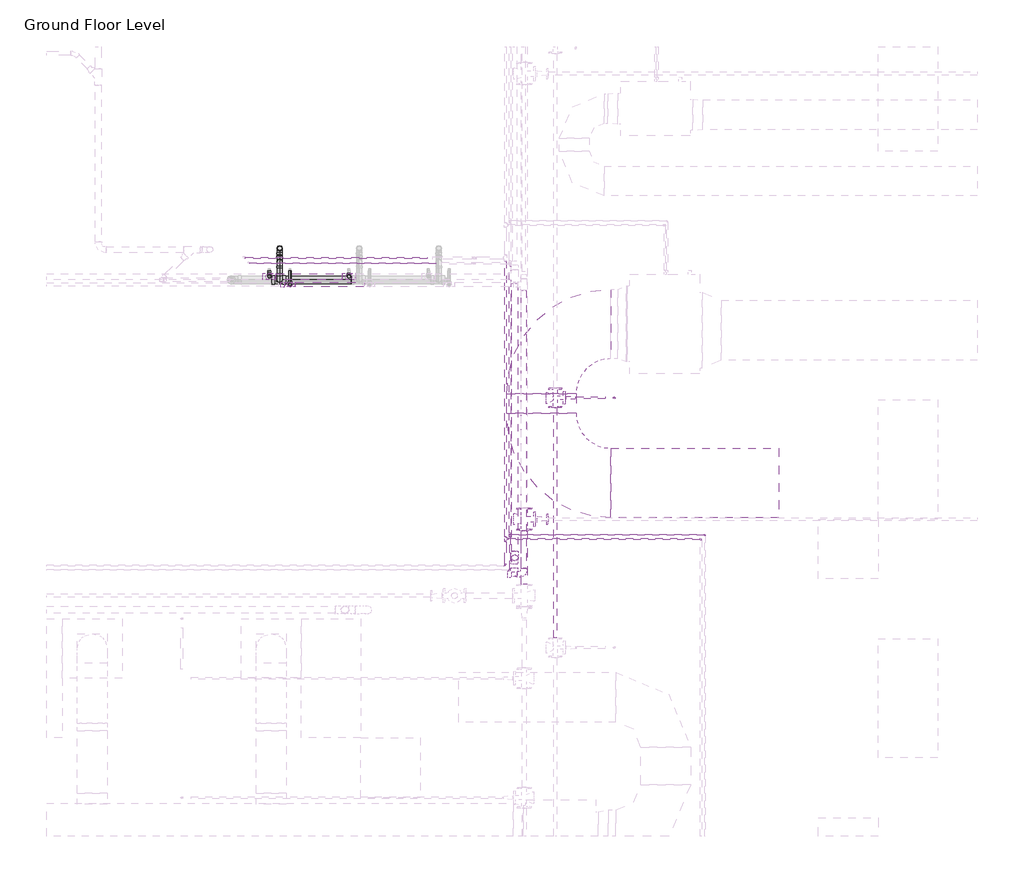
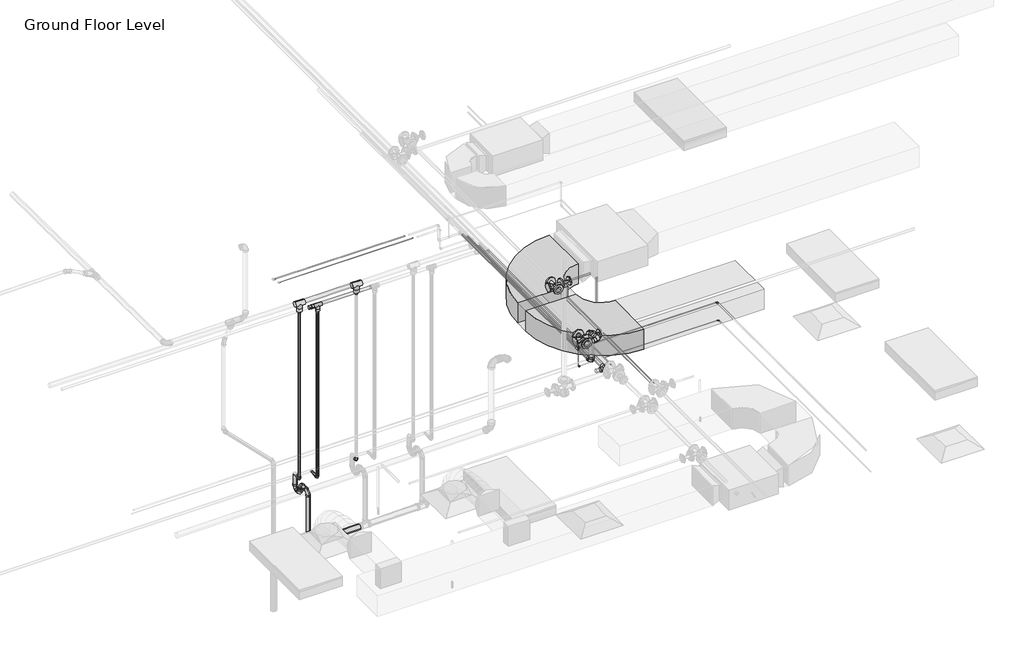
# One storey, part 17 of 75: 34 pipe fittings, 29 pipe segments, 2 duct fittings, 2 duct segments, 1 fire suppression terminal.
"""IFC4 building model written with IfcOpenShell, lengths in millimetres."""

from ifc_helpers import new_model, si_unit, point, frame, frame_2d, origin, place, context, project, spatial, polyline, circle_curve, trimmed, segment, composite_curve, outline, extrude, transform, mapped, element, save
from components import m_rectangular_elbow_radius_1_w_8a62b27e, m_sprinkler_pendent_15_mm_pendent_06fcbd8e, m_bend_pvc_sch_40_dwv_standard_1e7bdcc1, m_bend_pvc_sch_40_dwv_standard_776e50c4, m_bend_pvc_sch_40_dwv_standard_aab78995, m_elbow_generic_standard_a088f956, m_elbow_generic_standard_2a704253, m_reducer_flanged_cs_class_150_standard_d42b2106, m_reducer_flanged_cs_class_150_standard_a7631c35, m_tee_generic_standard_5b2ed4d4, m_tee_generic_standard_cdc1cff5, m_tee_reducing_sanitary_pvc_sch_40_dwv_standard_21d2848c, m_tee_round_base_flanged_cs_class_150_standard_dd767e04, m_tee_round_base_flanged_cs_class_150_standard_7e5987a1, m_transition_generic_standard_6dc712c0, m_transition_generic_standard_bdcfe2c1, m_transition_generic_standard_2d362458, standard_b266ab3f, standard_08ff6011, standard_d0d0b892, standard_cd25fed3, standard_83629b21, standard_57727813, standard_9d5ac8af, standard_102e5625

model = new_model("IFC4")

# Units and contexts
model_context = context("Model", 3, world=origin())
ifc_project = project(units=[si_unit("LENGTHUNIT", "METRE", prefix="MILLI")], contexts=[model_context])

# Site, building, storey
site = spatial("IfcSite", under=ifc_project)
building = spatial("IfcBuilding", under=site)
storey = spatial("IfcBuildingStorey", under=building, Name="Ground Floor Level", Elevation=900.0)

# Duct fittings
placement = place(None, origin())
m_rectangular_elbow_radius_1_w_shape = m_rectangular_elbow_radius_1_w_8a62b27e(model_context)
element("IfcDuctFitting", 1, ObjectType="M_Rectangular Elbow - Radius : 1 W", at=placement, inside=storey, context=model_context, shape_type="MappedRepresentation", body=[
    mapped(m_rectangular_elbow_radius_1_w_shape, transform((5857.7672394, -33301.2726336, 4032.4375), x_axis=(-1.0, 0.0, 0.0), y_axis=(0.0, -1.0, 0.0), z_axis=(0.0, 0.0, 1.0))),
])
element("IfcDuctFitting", 2, ObjectType="M_Rectangular Elbow - Radius : 1 W", at=placement, inside=storey, context=model_context, shape_type="MappedRepresentation", body=[
    mapped(m_rectangular_elbow_radius_1_w_shape, transform((5857.7672394, -34901.2726336, 4032.4375), x_axis=(0.0, -1.0, 0.0), y_axis=(1.0, 0.0, 0.0), z_axis=(0.0, 0.0, 1.0))),
])

# Duct segments
element("IfcDuctSegment", 3, ObjectType="Radius Elbows / Taps", at=placement, inside=storey, context=model_context, shape_type="SweptSolid", body=[
    extrude(outline(polyline([(5507.7672394, -34001.2726336), (6207.7672394, -34001.2726336), (6207.7672394, -34201.2726336), (5507.7672394, -34201.2726336), (5507.7672394, -34001.2726336)])), frame((0.0, 0.0, 3882.4375), z_axis=(0.0, 0.0, 1.0), x_axis=(1.0, 0.0, 0.0)), (0.0, 0.0, 1.0), 300.0),
])
element("IfcDuctSegment", 4, ObjectType="Radius Elbows / Taps", at=placement, inside=storey, context=model_context, shape_type="SweptSolid", body=[
    extrude(outline(polyline([(6557.7672394, -35251.2726336), (6557.7672394, -34551.2726336), (8242.7672394, -34551.2726336), (8242.7672394, -35251.2726336), (6557.7672394, -35251.2726336)])), frame((0.0, 0.0, 3882.4375), z_axis=(0.0, 0.0, 1.0), x_axis=(1.0, 0.0, 0.0)), (0.0, 0.0, 1.0), 300.0),
])

# Fire suppression terminal
m_sprinkler_pendent_15_mm_pendent_shape = m_sprinkler_pendent_15_mm_pendent_06fcbd8e(model_context)
element("IfcFireSuppressionTerminal", 5, ObjectType="M_Sprinkler - Pendent : 15 mm Pendent", at=placement, inside=storey, context=model_context, shape_type="MappedRepresentation", body=[
    mapped(m_sprinkler_pendent_15_mm_pendent_shape, transform((6592.5481019, -34045.051432, 3650.0), x_axis=(1.0, 0.0, 0.0), y_axis=(0.0, 1.0, 0.0), z_axis=(0.0, 0.0, 1.0))),
])

# Pipe fittings
m_bend_pvc_sch_40_dwv_standard_shape = m_bend_pvc_sch_40_dwv_standard_1e7bdcc1(model_context)
element("IfcPipeFitting", 6, ObjectType="M_Bend - PVC - Sch 40 - DWV : Standard", at=placement, inside=storey, context=model_context, shape_type="MappedRepresentation", body=[
    mapped(m_bend_pvc_sch_40_dwv_standard_shape, transform((3226.7846789, -32541.2164355, 1350.0), x_axis=(0.0, 0.0, -1.0), y_axis=(0.0, -1.0, 0.0), z_axis=(-1.0, 0.0, 0.0))),
])
m_bend_pvc_sch_40_dwv_standard_2_shape = m_bend_pvc_sch_40_dwv_standard_776e50c4(model_context)
element("IfcPipeFitting", 7, ObjectType="M_Bend - PVC - Sch 40 - DWV : Standard", at=placement, inside=storey, context=model_context, shape_type="MappedRepresentation", body=[
    mapped(m_bend_pvc_sch_40_dwv_standard_2_shape, transform((3226.7846789, -32676.2164355, 1348.45), x_axis=(0.0, -0.9999500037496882, -0.009999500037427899), y_axis=(0.0, -0.009999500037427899, 0.9999500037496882), z_axis=(-1.0, 0.0, 0.0))),
])
element("IfcPipeFitting", 8, ObjectType="M_Bend - PVC - Sch 40 - DWV : Standard", at=placement, inside=storey, context=model_context, shape_type="MappedRepresentation", body=[
    mapped(m_bend_pvc_sch_40_dwv_standard_2_shape, transform((3226.7846789, -32676.2164355, 1490.0), x_axis=(0.0, 0.0, 1.0), y_axis=(0.0, -1.0, 0.0), z_axis=(1.0, 0.0, 0.0))),
])
m_bend_pvc_sch_40_dwv_standard_3_shape = m_bend_pvc_sch_40_dwv_standard_aab78995(model_context)
element("IfcPipeFitting", 9, ObjectType="M_Bend - PVC - Sch 40 - DWV : Standard", at=placement, inside=storey, context=model_context, shape_type="MappedRepresentation", body=[
    mapped(m_bend_pvc_sch_40_dwv_standard_3_shape, transform((3226.7846789, -32858.7119065, 1488.4250453), x_axis=(0.0, -0.999968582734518, -0.007926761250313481), y_axis=(0.0, 0.007926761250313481, -0.999968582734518), z_axis=(1.0, 0.0, 0.0))),
])
m_elbow_generic_standard_shape = m_elbow_generic_standard_a088f956(model_context)
element("IfcPipeFitting", 10, ObjectType="M_Elbow - Generic : Standard", at=placement, inside=storey, context=model_context, shape_type="MappedRepresentation", body=[
    mapped(m_elbow_generic_standard_shape, transform((5497.8951827, -35730.466218, 4390.0), x_axis=(1.0, 0.0, 0.0), y_axis=(0.0, 1.0, 0.0), z_axis=(0.0, 0.0, 1.0))),
])
element("IfcPipeFitting", 11, ObjectType="M_Elbow - Generic : Standard", at=placement, inside=storey, context=model_context, shape_type="MappedRepresentation", body=[
    mapped(m_elbow_generic_standard_shape, transform((7462.8951827, -35463.1206952, 4390.0), x_axis=(0.0, 1.0, 0.0), y_axis=(-1.0, 0.0, 0.0), z_axis=(0.0, 0.0, 1.0))),
])
m_elbow_generic_standard_2_shape = m_elbow_generic_standard_2a704253(model_context)
element("IfcPipeFitting", 12, ObjectType="M_Elbow - Generic : Standard", at=placement, inside=storey, context=model_context, shape_type="MappedRepresentation", body=[
    mapped(m_elbow_generic_standard_2_shape, transform((5543.9904113, -35773.5402522, 4377.5), x_axis=(1.0, 0.0, 0.0), y_axis=(0.0, 1.0, 0.0), z_axis=(0.0, 0.0, 1.0))),
])
element("IfcPipeFitting", 13, ObjectType="M_Elbow - Generic : Standard", at=placement, inside=storey, context=model_context, shape_type="MappedRepresentation", body=[
    mapped(m_elbow_generic_standard_2_shape, transform((7503.9904113, -35420.6009836, 4084.9), x_axis=(0.0, 1.0, 0.0), y_axis=(-1.0, 0.0, 0.0), z_axis=(0.0, 0.0, 1.0))),
])
element("IfcPipeFitting", 14, ObjectType="M_Elbow - Generic : Standard", at=placement, inside=storey, context=model_context, shape_type="MappedRepresentation", body=[
    mapped(m_elbow_generic_standard_2_shape, transform((5543.9904113, -35420.6009836, 4084.9), x_axis=(0.0, 0.0, -1.0), y_axis=(1.0, 0.0, 0.0), z_axis=(0.0, -1.0, 0.0))),
])
m_reducer_flanged_cs_class_150_standard_shape = m_reducer_flanged_cs_class_150_standard_d42b2106(model_context)
element("IfcPipeFitting", 15, ObjectType="M_Reducer - Flanged - CS - Class 150 : Standard", at=placement, inside=storey, context=model_context, shape_type="MappedRepresentation", body=[
    mapped(m_reducer_flanged_cs_class_150_standard_shape, transform((6097.7664057, -34045.051432, 4291.2754753), x_axis=(1.0, 0.0, 0.0), y_axis=(0.0, 0.0, -1.0), z_axis=(0.0, 1.0, 0.0))),
])
m_reducer_flanged_cs_class_150_standard_2_shape = m_reducer_flanged_cs_class_150_standard_a7631c35(model_context)
element("IfcPipeFitting", 16, ObjectType="M_Reducer - Flanged - CS - Class 150 : Standard", at=placement, inside=storey, context=model_context, shape_type="MappedRepresentation", body=[
    mapped(m_reducer_flanged_cs_class_150_standard_2_shape, transform((5798.6174894, -35264.7846466, 4347.5), x_axis=(1.0, 0.0, 0.0), y_axis=(0.0, 0.0, 1.0), z_axis=(0.0, -1.0, 0.0))),
])
m_tee_generic_standard_shape = m_tee_generic_standard_5b2ed4d4(model_context)
element("IfcPipeFitting", 17, ObjectType="M_Tee - Generic : Standard", at=placement, inside=storey, context=model_context, shape_type="MappedRepresentation", body=[
    mapped(m_tee_generic_standard_shape, transform((5543.9904113, -35420.6009836, 4377.5), x_axis=(0.0, 1.0, 0.0), y_axis=(0.0, 0.0, 1.0), z_axis=(1.0, 0.0, 0.0))),
])
m_tee_generic_standard_2_shape = m_tee_generic_standard_cdc1cff5(model_context)
element("IfcPipeFitting", 18, ObjectType="M_Tee - Generic : Standard", at=placement, inside=storey, context=model_context, shape_type="MappedRepresentation", body=[
    mapped(m_tee_generic_standard_2_shape, transform((5497.8951827, -35463.1206952, 4390.0), x_axis=(0.0, 1.0, 0.0), y_axis=(-1.0, 0.0, 0.0), z_axis=(0.0, 0.0, 1.0))),
])
m_tee_reducing_sanitary_pvc_sch_40_dwv_standard_shape = m_tee_reducing_sanitary_pvc_sch_40_dwv_standard_21d2848c(model_context)
element("IfcPipeFitting", 19, ObjectType="M_Tee Reducing Sanitary - PVC - Sch 40 - DWV : Standard", at=placement, inside=storey, context=model_context, shape_type="MappedRepresentation", body=[
    mapped(m_tee_reducing_sanitary_pvc_sch_40_dwv_standard_shape, transform((3226.7846789, -32858.7119065, 706.4596926), x_axis=(0.9999500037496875, 0.0, 0.00999950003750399), y_axis=(0.00999950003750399, 0.0, -0.9999500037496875), z_axis=(0.0, 1.0, 0.0))),
])
m_tee_round_base_flanged_cs_class_150_standard_shape = m_tee_round_base_flanged_cs_class_150_standard_dd767e04(model_context)
element("IfcPipeFitting", 20, ObjectType="M_Tee Round Base - Flanged - CS - Class 150 : Standard", at=placement, inside=storey, context=model_context, shape_type="MappedRepresentation", body=[
    mapped(m_tee_round_base_flanged_cs_class_150_standard_shape, transform((5684.6174894, -35264.7846466, 4347.5), x_axis=(0.0, -1.0, 0.0), y_axis=(-1.0, 0.0, 0.0), z_axis=(0.0, 0.0, -1.0))),
])
m_tee_round_base_flanged_cs_class_150_standard_2_shape = m_tee_round_base_flanged_cs_class_150_standard_7e5987a1(model_context)
element("IfcPipeFitting", 21, ObjectType="M_Tee Round Base - Flanged - CS - Class 150 : Standard", at=placement, inside=storey, context=model_context, shape_type="MappedRepresentation", body=[
    mapped(m_tee_round_base_flanged_cs_class_150_standard_2_shape, transform((5997.057812, -34045.051432, 4291.0943441), x_axis=(0.0, 1.0, 0.0), y_axis=(-1.0, 0.0, 0.0), z_axis=(0.0, 0.0, 1.0))),
])
m_transition_generic_standard_shape = m_transition_generic_standard_6dc712c0(model_context)
element("IfcPipeFitting", 22, ObjectType="M_Transition - Generic : Standard", at=placement, inside=storey, context=model_context, shape_type="MappedRepresentation", body=[
    mapped(m_transition_generic_standard_shape, transform((5497.8951827, -35485.3456952, 4390.0), x_axis=(0.0, -1.0, 0.0), y_axis=(1.0, 0.0, 0.0), z_axis=(0.0, 0.0, 1.0))),
])
element("IfcPipeFitting", 23, ObjectType="M_Transition - Generic : Standard", at=placement, inside=storey, context=model_context, shape_type="MappedRepresentation", body=[
    mapped(m_transition_generic_standard_shape, transform((5520.1201827, -35463.1206952, 4390.0), x_axis=(1.0, 0.0, 0.0), y_axis=(0.0, 1.0, 0.0), z_axis=(0.0, 0.0, 1.0))),
])
m_transition_generic_standard_2_shape = m_transition_generic_standard_bdcfe2c1(model_context)
element("IfcPipeFitting", 24, ObjectType="M_Transition - Generic : Standard", at=placement, inside=storey, context=model_context, shape_type="MappedRepresentation", body=[
    mapped(m_transition_generic_standard_2_shape, transform((5543.9904113, -35441.2384836, 4377.5), x_axis=(0.0, -1.0, 0.0), y_axis=(1.0, 0.0, 0.0), z_axis=(0.0, 0.0, 1.0))),
])
m_transition_generic_standard_3_shape = m_transition_generic_standard_2d362458(model_context)
element("IfcPipeFitting", 25, ObjectType="M_Transition - Generic : Standard", at=placement, inside=storey, context=model_context, shape_type="MappedRepresentation", body=[
    mapped(m_transition_generic_standard_3_shape, transform((5543.9904113, -35420.6009836, 4356.8625), x_axis=(0.0, 0.0, -1.0), y_axis=(-1.0, 0.0, 0.0), z_axis=(0.0, 1.0, 0.0))),
])
standard_shape = standard_b266ab3f(model_context)
element("IfcPipeFitting", 26, ObjectType="M_Elbow - CPVC - Sch 40 : Standard", at=placement, inside=storey, context=model_context, shape_type="MappedRepresentation", body=[
    mapped(standard_shape, transform((3922.4697583, -32824.9853451, 1690.0), x_axis=(0.0, 0.0, -1.0), y_axis=(0.0, 1.0, 0.0), z_axis=(1.0, 0.0, 0.0))),
])
element("IfcPipeFitting", 27, ObjectType="M_Elbow - CPVC - Sch 40 : Standard", at=placement, inside=storey, context=model_context, shape_type="MappedRepresentation", body=[
    mapped(standard_shape, transform((3122.4697583, -32824.9853451, 1690.0), x_axis=(0.0, 0.0, -1.0), y_axis=(0.0, 1.0, 0.0), z_axis=(1.0, 0.0, 0.0))),
])
element("IfcPipeFitting", 28, ObjectType="M_Elbow - CPVC - Sch 40 : Standard", at=placement, inside=storey, context=model_context, shape_type="MappedRepresentation", body=[
    mapped(standard_shape, transform((3331.0995995, -32905.870708, 1690.0), x_axis=(0.0, -1.0, 0.0), y_axis=(0.0, 0.0, 1.0), z_axis=(-1.0, 0.0, 0.0))),
])
standard_2_shape = standard_08ff6011(model_context)
element("IfcPipeFitting", 29, ObjectType="M_Tee - CPVC - Sch 40 : Standard", at=placement, inside=storey, context=model_context, shape_type="MappedRepresentation", body=[
    mapped(standard_2_shape, transform((3331.0995995, -32905.870708, 4250.0), x_axis=(1.0, 0.0, 0.0), y_axis=(0.0, 0.0, 1.0), z_axis=(0.0, -1.0, 0.0))),
])
standard_3_shape = standard_d0d0b892(model_context)
element("IfcPipeFitting", 30, ObjectType="M_Coupling Reducing - CPVC - Sch 40 : Standard", at=placement, inside=storey, context=model_context, shape_type="MappedRepresentation", body=[
    mapped(standard_3_shape, transform((3277.1245995, -32905.870708, 4250.0), x_axis=(-1.0, 0.0, 0.0), y_axis=(0.0, -1.0, 0.0), z_axis=(0.0, 0.0, 1.0))),
])
standard_4_shape = standard_cd25fed3(model_context)
element("IfcPipeFitting", 31, ObjectType="M_Tee - CPVC - Sch 40 : Standard", at=placement, inside=storey, context=model_context, shape_type="MappedRepresentation", body=[
    mapped(standard_4_shape, transform((3922.4697583, -32824.9853451, 4300.0), x_axis=(-1.0, 0.0, 0.0), y_axis=(0.0, 0.0, 1.0), z_axis=(0.0, 1.0, 0.0))),
])
element("IfcPipeFitting", 32, ObjectType="M_Tee - CPVC - Sch 40 : Standard", at=placement, inside=storey, context=model_context, shape_type="MappedRepresentation", body=[
    mapped(standard_4_shape, transform((3122.4697583, -32824.9853451, 4300.0), x_axis=(-1.0, 0.0, 0.0), y_axis=(0.0, 0.0, 1.0), z_axis=(0.0, 1.0, 0.0))),
])
standard_5_shape = standard_83629b21(model_context)
element("IfcPipeFitting", 33, ObjectType="M_Coupling Reducing - CPVC - Sch 40 : Standard", at=placement, inside=storey, context=model_context, shape_type="MappedRepresentation", body=[
    mapped(standard_5_shape, transform((3331.0995995, -32905.870708, 4196.025), x_axis=(0.0, 0.0, -1.0), y_axis=(-1.0, 0.0, 0.0), z_axis=(0.0, 1.0, 0.0))),
])
standard_6_shape = standard_57727813(model_context)
element("IfcPipeFitting", 34, ObjectType="M_Elbow - CPVC - Sch 40 : Standard", at=placement, inside=storey, context=model_context, shape_type="MappedRepresentation", body=[
    mapped(standard_6_shape, transform((5589.646628, -35653.7116931, 4719.8375), x_axis=(0.0, 0.0, 1.0), y_axis=(-0.06975647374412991, -0.997564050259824, 0.0), z_axis=(0.997564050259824, -0.06975647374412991, 0.0))),
])
element("IfcPipeFitting", 35, ObjectType="M_Elbow - CPVC - Sch 40 : Standard", at=placement, inside=storey, context=model_context, shape_type="MappedRepresentation", body=[
    mapped(standard_6_shape, transform((5585.1617227, -35819.459752, 4719.8375), x_axis=(1.0, 0.0, 0.0), y_axis=(0.0, 1.0, 0.0), z_axis=(0.0, 0.0, 1.0))),
])
element("IfcPipeFitting", 36, ObjectType="M_Elbow - CPVC - Sch 40 : Standard", at=placement, inside=storey, context=model_context, shape_type="MappedRepresentation", body=[
    mapped(standard_6_shape, transform((5589.646628, -35653.7116931, 4300.0), x_axis=(0.0, 0.0, -1.0), y_axis=(0.0, 1.0, 0.0), z_axis=(1.0, 0.0, 0.0))),
])
standard_7_shape = standard_9d5ac8af(model_context)
element("IfcPipeFitting", 37, ObjectType="M_Coupling Reducing - CPVC - Sch 40 : Standard", at=placement, inside=storey, context=model_context, shape_type="MappedRepresentation", body=[
    mapped(standard_7_shape, transform((3922.4697583, -32824.9853451, 4233.325), x_axis=(0.0, 0.0, -1.0), y_axis=(-1.0, 0.0, 0.0), z_axis=(0.0, 1.0, 0.0))),
])
element("IfcPipeFitting", 38, ObjectType="M_Coupling Reducing - CPVC - Sch 40 : Standard", at=placement, inside=storey, context=model_context, shape_type="MappedRepresentation", body=[
    mapped(standard_7_shape, transform((3122.4697583, -32824.9853451, 4233.325), x_axis=(0.0, 0.0, -1.0), y_axis=(-1.0, 0.0, 0.0), z_axis=(0.0, 1.0, 0.0))),
])
standard_8_shape = standard_102e5625(model_context)
element("IfcPipeFitting", 39, ObjectType="M_Elbow - CPVC - Sch 40 : Standard", at=placement, inside=storey, context=model_context, shape_type="MappedRepresentation", body=[
    mapped(standard_8_shape, transform((5680.5575802, -35819.459752, 4250.0), x_axis=(1.0, 0.0, 0.0), y_axis=(0.0, 1.0, 0.0), z_axis=(0.0, 0.0, 1.0))),
])

# Pipe segments
element("IfcPipeSegment", 40, ObjectType="CPVC", at=placement, inside=storey, context=model_context, shape_type="SweptSolid", body=[
    extrude(outline(composite_curve([segment(trimmed(circle_curve(frame_2d((5589.646628, -35653.7116931)), 30.1625), [point((5559.484128, -35653.7116931))], [point((5589.646628, -35623.5491931))], False, "CARTESIAN"), True, "CONTINUOUS"), segment(trimmed(circle_curve(frame_2d((5589.646628, -35653.7116931)), 30.1625), [point((5589.646628, -35623.5491931))], [point((5619.809128, -35653.7116931))], False, "CARTESIAN"), True, "CONTINUOUS"), segment(trimmed(circle_curve(frame_2d((5589.646628, -35653.7116931)), 30.1625), [point((5619.809128, -35653.7116931))], [point((5589.646628, -35683.8741931))], False, "CARTESIAN"), True, "CONTINUOUS"), segment(trimmed(circle_curve(frame_2d((5589.646628, -35653.7116931)), 30.1625), [point((5589.646628, -35683.8741931))], [point((5559.484128, -35653.7116931))], False, "CARTESIAN"), True, "CONTINUOUS")], self_intersect=False)), frame((0.0, 0.0, 4364.29375), z_axis=(0.0, 0.0, 1.0), x_axis=(1.0, 0.0, 0.0)), (0.0, 0.0, 1.0), 291.25),
])
element("IfcPipeSegment", 41, ObjectType="CPVC", at=placement, inside=storey, context=model_context, shape_type="SweptSolid", body=[
    extrude(outline(composite_curve([segment(trimmed(circle_curve(frame_2d((4300.0, 5589.646628)), 30.1625), [point((4300.0, 5559.484128))], [point((4269.8375, 5589.646628))], False, "CARTESIAN"), True, "CONTINUOUS"), segment(trimmed(circle_curve(frame_2d((4300.0, 5589.646628)), 30.1625), [point((4269.8375, 5589.646628))], [point((4300.0, 5619.809128))], False, "CARTESIAN"), True, "CONTINUOUS"), segment(trimmed(circle_curve(frame_2d((4300.0, 5589.646628)), 30.1625), [point((4300.0, 5619.809128))], [point((4330.1625, 5589.646628))], False, "CARTESIAN"), True, "CONTINUOUS"), segment(trimmed(circle_curve(frame_2d((4300.0, 5589.646628)), 30.1625), [point((4330.1625, 5589.646628))], [point((4300.0, 5559.484128))], False, "CARTESIAN"), True, "CONTINUOUS")], self_intersect=False)), frame((0.0, -35589.4179431, 0.0), z_axis=(0.0, 1.0, 0.0), x_axis=(0.0, 0.0, 1.0)), (0.0, 0.0, 1.0), 2697.757598),
])
element("IfcPipeSegment", 42, ObjectType="CPVC", at=placement, inside=storey, context=model_context, shape_type="SweptSolid", body=[
    extrude(outline(composite_curve([segment(trimmed(circle_curve(frame_2d((-32824.9853451, 4300.0)), 30.1625), [point((-32855.1478451, 4300.0))], [point((-32824.9853451, 4330.1625))], False, "CARTESIAN"), True, "CONTINUOUS"), segment(trimmed(circle_curve(frame_2d((-32824.9853451, 4300.0)), 30.1625), [point((-32824.9853451, 4330.1625))], [point((-32794.8228451, 4300.0))], False, "CARTESIAN"), True, "CONTINUOUS"), segment(trimmed(circle_curve(frame_2d((-32824.9853451, 4300.0)), 30.1625), [point((-32794.8228451, 4300.0))], [point((-32824.9853451, 4269.8375))], False, "CARTESIAN"), True, "CONTINUOUS"), segment(trimmed(circle_curve(frame_2d((-32824.9853451, 4300.0)), 30.1625), [point((-32824.9853451, 4269.8375))], [point((-32855.1478451, 4300.0))], False, "CARTESIAN"), True, "CONTINUOUS")], self_intersect=False)), frame((3189.1447583, 0.0, 0.0), z_axis=(1.0, 0.0, 0.0), x_axis=(0.0, 1.0, 0.0)), (0.0, 0.0, 1.0), 666.65),
])
element("IfcPipeSegment", 43, ObjectType="CPVC", at=placement, inside=storey, context=model_context, shape_type="SweptSolid", body=[
    extrude(outline(composite_curve([segment(trimmed(circle_curve(frame_2d((1690.0, 3122.4697583)), 13.335), [point((1690.0, 3135.8047583))], [point((1703.335, 3122.4697583))], False, "CARTESIAN"), True, "CONTINUOUS"), segment(trimmed(circle_curve(frame_2d((1690.0, 3122.4697583)), 13.335), [point((1703.335, 3122.4697583))], [point((1690.0, 3109.1347583))], False, "CARTESIAN"), True, "CONTINUOUS"), segment(trimmed(circle_curve(frame_2d((1690.0, 3122.4697583)), 13.335), [point((1690.0, 3109.1347583))], [point((1676.665, 3122.4697583))], False, "CARTESIAN"), True, "CONTINUOUS"), segment(trimmed(circle_curve(frame_2d((1690.0, 3122.4697583)), 13.335), [point((1676.665, 3122.4697583))], [point((1690.0, 3135.8047583))], False, "CARTESIAN"), True, "CONTINUOUS")], self_intersect=False)), frame((0.0, -32789.6602951, 0.0), z_axis=(0.0, 1.0, 0.0), x_axis=(0.0, 0.0, 1.0)), (0.0, 0.0, 1.0), 24.8756485),
])
element("IfcPipeSegment", 44, ObjectType="CPVC", at=placement, inside=storey, context=model_context, shape_type="SweptSolid", body=[
    extrude(outline(composite_curve([segment(trimmed(circle_curve(frame_2d((3122.4697583, -32824.9853451)), 13.335), [point((3135.8047583, -32824.9853451))], [point((3122.4697583, -32838.3203451))], False, "CARTESIAN"), True, "CONTINUOUS"), segment(trimmed(circle_curve(frame_2d((3122.4697583, -32824.9853451)), 13.335), [point((3122.4697583, -32838.3203451))], [point((3109.1347583, -32824.9853451))], False, "CARTESIAN"), True, "CONTINUOUS"), segment(trimmed(circle_curve(frame_2d((3122.4697583, -32824.9853451)), 13.335), [point((3109.1347583, -32824.9853451))], [point((3122.4697583, -32811.6503451))], False, "CARTESIAN"), True, "CONTINUOUS"), segment(trimmed(circle_curve(frame_2d((3122.4697583, -32824.9853451)), 13.335), [point((3122.4697583, -32811.6503451))], [point((3135.8047583, -32824.9853451))], False, "CARTESIAN"), True, "CONTINUOUS")], self_intersect=False)), frame((0.0, 0.0, 1725.32505), z_axis=(0.0, 0.0, 1.0), x_axis=(1.0, 0.0, 0.0)), (0.0, 0.0, 1.0), 2431.503075),
])
element("IfcPipeSegment", 45, ObjectType="CPVC", at=placement, inside=storey, context=model_context, shape_type="SweptSolid", body=[
    extrude(outline(composite_curve([segment(trimmed(circle_curve(frame_2d((4250.0, 5680.5575802)), 24.13), [point((4250.0, 5704.6875802))], [point((4274.13, 5680.5575802))], False, "CARTESIAN"), True, "CONTINUOUS"), segment(trimmed(circle_curve(frame_2d((4250.0, 5680.5575802)), 24.13), [point((4274.13, 5680.5575802))], [point((4250.0, 5656.4275802))], False, "CARTESIAN"), True, "CONTINUOUS"), segment(trimmed(circle_curve(frame_2d((4250.0, 5680.5575802)), 24.13), [point((4250.0, 5656.4275802))], [point((4225.87, 5680.5575802))], False, "CARTESIAN"), True, "CONTINUOUS"), segment(trimmed(circle_curve(frame_2d((4250.0, 5680.5575802)), 24.13), [point((4225.87, 5680.5575802))], [point((4250.0, 5704.6875802))], False, "CARTESIAN"), True, "CONTINUOUS")], self_intersect=False)), frame((0.0, -35756.740802, 0.0), z_axis=(0.0, 1.0, 0.0), x_axis=(0.0, 0.0, 1.0)), (0.0, 0.0, 1.0), 2792.119894),
])
element("IfcPipeSegment", 46, ObjectType="CPVC", at=placement, inside=storey, context=model_context, shape_type="SweptSolid", body=[
    extrude(outline(composite_curve([segment(trimmed(circle_curve(frame_2d((1690.0, 3331.0995995)), 13.335), [point((1690.0, 3317.7645995))], [point((1676.665, 3331.0995995))], False, "CARTESIAN"), True, "CONTINUOUS"), segment(trimmed(circle_curve(frame_2d((1690.0, 3331.0995995)), 13.335), [point((1676.665, 3331.0995995))], [point((1690.0, 3344.4345995))], False, "CARTESIAN"), True, "CONTINUOUS"), segment(trimmed(circle_curve(frame_2d((1690.0, 3331.0995995)), 13.335), [point((1690.0, 3344.4345995))], [point((1703.335, 3331.0995995))], False, "CARTESIAN"), True, "CONTINUOUS"), segment(trimmed(circle_curve(frame_2d((1690.0, 3331.0995995)), 13.335), [point((1703.335, 3331.0995995))], [point((1690.0, 3317.7645995))], False, "CARTESIAN"), True, "CONTINUOUS")], self_intersect=False)), frame((0.0, -32870.545658, 0.0), z_axis=(0.0, 1.0, 0.0), x_axis=(0.0, 0.0, 1.0)), (0.0, 0.0, 1.0), 105.7610114),
])
element("IfcPipeSegment", 47, ObjectType="CPVC", at=placement, inside=storey, context=model_context, shape_type="SweptSolid", body=[
    extrude(outline(composite_curve([segment(trimmed(circle_curve(frame_2d((3331.0995995, -32905.870708)), 13.335), [point((3317.7645995, -32905.870708))], [point((3331.0995995, -32892.535708))], False, "CARTESIAN"), True, "CONTINUOUS"), segment(trimmed(circle_curve(frame_2d((3331.0995995, -32905.870708)), 13.335), [point((3331.0995995, -32892.535708))], [point((3344.4345995, -32905.870708))], False, "CARTESIAN"), True, "CONTINUOUS"), segment(trimmed(circle_curve(frame_2d((3331.0995995, -32905.870708)), 13.335), [point((3344.4345995, -32905.870708))], [point((3331.0995995, -32919.205708))], False, "CARTESIAN"), True, "CONTINUOUS"), segment(trimmed(circle_curve(frame_2d((3331.0995995, -32905.870708)), 13.335), [point((3331.0995995, -32919.205708))], [point((3317.7645995, -32905.870708))], False, "CARTESIAN"), True, "CONTINUOUS")], self_intersect=False)), frame((0.0, 0.0, 1725.32505), z_axis=(0.0, 0.0, 1.0), x_axis=(1.0, 0.0, 0.0)), (0.0, 0.0, 1.0), 2407.883075),
])
element("IfcPipeSegment", 48, ObjectType="CPVC", at=placement, inside=storey, context=model_context, shape_type="SweptSolid", body=[
    extrude(outline(composite_curve([segment(trimmed(circle_curve(frame_2d((-32905.870708, 4250.0)), 21.082), [point((-32884.788708, 4250.0))], [point((-32905.870708, 4228.918))], False, "CARTESIAN"), True, "CONTINUOUS"), segment(trimmed(circle_curve(frame_2d((-32905.870708, 4250.0)), 21.082), [point((-32905.870708, 4228.918))], [point((-32926.952708, 4250.0))], False, "CARTESIAN"), True, "CONTINUOUS"), segment(trimmed(circle_curve(frame_2d((-32905.870708, 4250.0)), 21.082), [point((-32926.952708, 4250.0))], [point((-32905.870708, 4271.082))], False, "CARTESIAN"), True, "CONTINUOUS"), segment(trimmed(circle_curve(frame_2d((-32905.870708, 4250.0)), 21.082), [point((-32905.870708, 4271.082))], [point((-32884.788708, 4250.0))], False, "CARTESIAN"), True, "CONTINUOUS")], self_intersect=False)), frame((3385.0745995, 0.0, 0.0), z_axis=(1.0, 0.0, 0.0), x_axis=(0.0, 1.0, 0.0)), (0.0, 0.0, 1.0), 692.05),
])
element("IfcPipeSegment", 49, ObjectType="CPVC", at=placement, inside=storey, context=model_context, shape_type="SweptSolid", body=[
    extrude(outline(composite_curve([segment(trimmed(circle_curve(frame_2d((-35819.459752, 4250.0)), 24.13), [point((-35843.589752, 4250.0))], [point((-35819.459752, 4274.13))], False, "CARTESIAN"), True, "CONTINUOUS"), segment(trimmed(circle_curve(frame_2d((-35819.459752, 4250.0)), 24.13), [point((-35819.459752, 4274.13))], [point((-35795.329752, 4250.0))], False, "CARTESIAN"), True, "CONTINUOUS"), segment(trimmed(circle_curve(frame_2d((-35819.459752, 4250.0)), 24.13), [point((-35795.329752, 4250.0))], [point((-35819.459752, 4225.87))], False, "CARTESIAN"), True, "CONTINUOUS"), segment(trimmed(circle_curve(frame_2d((-35819.459752, 4250.0)), 24.13), [point((-35819.459752, 4225.87))], [point((-35843.589752, 4250.0))], False, "CARTESIAN"), True, "CONTINUOUS")], self_intersect=False)), frame((5558.4766944, 0.0, 0.0), z_axis=(1.0, 0.0, 0.0), x_axis=(0.0, 1.0, 0.0)), (0.0, 0.0, 1.0), 59.3619358),
])
element("IfcPipeSegment", 50, ObjectType="Copper", at=placement, inside=storey, context=model_context, shape_type="SweptSolid", body=[
    extrude(outline(composite_curve([segment(trimmed(circle_curve(frame_2d((4390.0, 5497.8951827)), 6.5), [point((4390.0, 5491.3951827))], [point((4383.5, 5497.8951827))], False, "CARTESIAN"), True, "CONTINUOUS"), segment(trimmed(circle_curve(frame_2d((4390.0, 5497.8951827)), 6.5), [point((4383.5, 5497.8951827))], [point((4390.0, 5504.3951827))], False, "CARTESIAN"), True, "CONTINUOUS"), segment(trimmed(circle_curve(frame_2d((4390.0, 5497.8951827)), 6.5), [point((4390.0, 5504.3951827))], [point((4396.5, 5497.8951827))], False, "CARTESIAN"), True, "CONTINUOUS"), segment(trimmed(circle_curve(frame_2d((4390.0, 5497.8951827)), 6.5), [point((4396.5, 5497.8951827))], [point((4390.0, 5491.3951827))], False, "CARTESIAN"), True, "CONTINUOUS")], self_intersect=False)), frame((0.0, -35716.178718, 0.0), z_axis=(0.0, 1.0, 0.0), x_axis=(0.0, 0.0, 1.0)), (0.0, 0.0, 1.0), 226.0705229),
])
element("IfcPipeSegment", 51, ObjectType="Copper", at=placement, inside=storey, context=model_context, shape_type="SweptSolid", body=[
    extrude(outline(composite_curve([segment(trimmed(circle_curve(frame_2d((-35463.1206952, 4390.0)), 6.5), [point((-35469.6206952, 4390.0))], [point((-35463.1206952, 4396.5))], False, "CARTESIAN"), True, "CONTINUOUS"), segment(trimmed(circle_curve(frame_2d((-35463.1206952, 4390.0)), 6.5), [point((-35463.1206952, 4396.5))], [point((-35456.6206952, 4390.0))], False, "CARTESIAN"), True, "CONTINUOUS"), segment(trimmed(circle_curve(frame_2d((-35463.1206952, 4390.0)), 6.5), [point((-35456.6206952, 4390.0))], [point((-35463.1206952, 4383.5))], False, "CARTESIAN"), True, "CONTINUOUS"), segment(trimmed(circle_curve(frame_2d((-35463.1206952, 4390.0)), 6.5), [point((-35463.1206952, 4383.5))], [point((-35469.6206952, 4390.0))], False, "CARTESIAN"), True, "CONTINUOUS")], self_intersect=False)), frame((5524.8826827, 0.0, 0.0), z_axis=(1.0, 0.0, 0.0), x_axis=(0.0, 1.0, 0.0)), (0.0, 0.0, 1.0), 1923.725),
])
element("IfcPipeSegment", 52, ObjectType="Copper", at=placement, inside=storey, context=model_context, shape_type="SweptSolid", body=[
    extrude(outline(composite_curve([segment(trimmed(circle_curve(frame_2d((4390.0, 5497.8951827)), 8.1), [point((4390.0, 5489.7951827))], [point((4381.9, 5497.8951827))], False, "CARTESIAN"), True, "CONTINUOUS"), segment(trimmed(circle_curve(frame_2d((4390.0, 5497.8951827)), 8.1), [point((4381.9, 5497.8951827))], [point((4390.0, 5505.9951827))], False, "CARTESIAN"), True, "CONTINUOUS"), segment(trimmed(circle_curve(frame_2d((4390.0, 5497.8951827)), 8.1), [point((4390.0, 5505.9951827))], [point((4398.1, 5497.8951827))], False, "CARTESIAN"), True, "CONTINUOUS"), segment(trimmed(circle_curve(frame_2d((4390.0, 5497.8951827)), 8.1), [point((4398.1, 5497.8951827))], [point((4390.0, 5489.7951827))], False, "CARTESIAN"), True, "CONTINUOUS")], self_intersect=False)), frame((0.0, -35440.8956952, 0.0), z_axis=(0.0, 1.0, 0.0), x_axis=(0.0, 0.0, 1.0)), (0.0, 0.0, 1.0), 2770.4294771),
])
element("IfcPipeSegment", 53, ObjectType="Copper", at=placement, inside=storey, context=model_context, shape_type="SweptSolid", body=[
    extrude(outline(composite_curve([segment(trimmed(circle_curve(frame_2d((4377.5, 5543.9904113)), 3.35), [point((4377.5, 5540.6404113))], [point((4374.15, 5543.9904113))], False, "CARTESIAN"), True, "CONTINUOUS"), segment(trimmed(circle_curve(frame_2d((4377.5, 5543.9904113)), 3.35), [point((4374.15, 5543.9904113))], [point((4377.5, 5547.3404113))], False, "CARTESIAN"), True, "CONTINUOUS"), segment(trimmed(circle_curve(frame_2d((4377.5, 5543.9904113)), 3.35), [point((4377.5, 5547.3404113))], [point((4380.85, 5543.9904113))], False, "CARTESIAN"), True, "CONTINUOUS"), segment(trimmed(circle_curve(frame_2d((4377.5, 5543.9904113)), 3.35), [point((4380.85, 5543.9904113))], [point((4377.5, 5540.6404113))], False, "CARTESIAN"), True, "CONTINUOUS")], self_intersect=False)), frame((0.0, -35762.4027522, 0.0), z_axis=(0.0, 1.0, 0.0), x_axis=(0.0, 0.0, 1.0)), (0.0, 0.0, 1.0), 317.1955186),
])
element("IfcPipeSegment", 54, ObjectType="Copper", at=placement, inside=storey, context=model_context, shape_type="SweptSolid", body=[
    extrude(outline(composite_curve([segment(trimmed(circle_curve(frame_2d((4377.5, 5543.9904113)), 6.5), [point((4377.5, 5537.4904113))], [point((4371.0, 5543.9904113))], False, "CARTESIAN"), True, "CONTINUOUS"), segment(trimmed(circle_curve(frame_2d((4377.5, 5543.9904113)), 6.5), [point((4371.0, 5543.9904113))], [point((4377.5, 5550.4904113))], False, "CARTESIAN"), True, "CONTINUOUS"), segment(trimmed(circle_curve(frame_2d((4377.5, 5543.9904113)), 6.5), [point((4377.5, 5550.4904113))], [point((4384.0, 5543.9904113))], False, "CARTESIAN"), True, "CONTINUOUS"), segment(trimmed(circle_curve(frame_2d((4377.5, 5543.9904113)), 6.5), [point((4384.0, 5543.9904113))], [point((4377.5, 5537.4904113))], False, "CARTESIAN"), True, "CONTINUOUS")], self_intersect=False)), frame((0.0, -35399.9634836, 0.0), z_axis=(0.0, 1.0, 0.0), x_axis=(0.0, 0.0, 1.0)), (0.0, 0.0, 1.0), 2681.4232314),
])
element("IfcPipeSegment", 55, ObjectType="Copper", at=placement, inside=storey, context=model_context, shape_type="SweptSolid", body=[
    extrude(outline(composite_curve([segment(trimmed(circle_curve(frame_2d((-32638.716218, 4621.4908765)), 8.1), [point((-32646.816218, 4621.4908765))], [point((-32638.716218, 4629.5908765))], False, "CARTESIAN"), True, "CONTINUOUS"), segment(trimmed(circle_curve(frame_2d((-32638.716218, 4621.4908765)), 8.1), [point((-32638.716218, 4629.5908765))], [point((-32630.616218, 4621.4908765))], False, "CARTESIAN"), True, "CONTINUOUS"), segment(trimmed(circle_curve(frame_2d((-32638.716218, 4621.4908765)), 8.1), [point((-32630.616218, 4621.4908765))], [point((-32638.716218, 4613.3908765))], False, "CARTESIAN"), True, "CONTINUOUS"), segment(trimmed(circle_curve(frame_2d((-32638.716218, 4621.4908765)), 8.1), [point((-32638.716218, 4613.3908765))], [point((-32646.816218, 4621.4908765))], False, "CARTESIAN"), True, "CONTINUOUS")], self_intersect=False)), frame((2883.1643107, 0.0, 0.0), z_axis=(1.0, 0.0, 0.0), x_axis=(0.0, 1.0, 0.0)), (0.0, 0.0, 1.0), 1826.6062839),
])
element("IfcPipeSegment", 56, ObjectType="Copper", at=placement, inside=storey, context=model_context, shape_type="SweptSolid", body=[
    extrude(outline(composite_curve([segment(trimmed(circle_curve(frame_2d((-32691.5527522, 4591.0863665)), 4.9), [point((-32686.6527522, 4591.0863665))], [point((-32691.5527522, 4586.1863665))], False, "CARTESIAN"), True, "CONTINUOUS"), segment(trimmed(circle_curve(frame_2d((-32691.5527522, 4591.0863665)), 4.9), [point((-32691.5527522, 4586.1863665))], [point((-32696.4527522, 4591.0863665))], False, "CARTESIAN"), True, "CONTINUOUS"), segment(trimmed(circle_curve(frame_2d((-32691.5527522, 4591.0863665)), 4.9), [point((-32696.4527522, 4591.0863665))], [point((-32691.5527522, 4595.9863665))], False, "CARTESIAN"), True, "CONTINUOUS"), segment(trimmed(circle_curve(frame_2d((-32691.5527522, 4591.0863665)), 4.9), [point((-32691.5527522, 4595.9863665))], [point((-32686.6527522, 4591.0863665))], False, "CARTESIAN"), True, "CONTINUOUS")], self_intersect=False)), frame((2924.0496079, 0.0, 0.0), z_axis=(1.0, 0.0, 0.0), x_axis=(0.0, 1.0, 0.0)), (0.0, 0.0, 1.0), 1873.9099107),
])
element("IfcPipeSegment", 57, ObjectType="Copper", at=placement, inside=storey, context=model_context, shape_type="SweptSolid", body=[
    extrude(outline(composite_curve([segment(trimmed(circle_curve(frame_2d((5543.9904113, -35420.6009836)), 3.35), [point((5547.3404113, -35420.6009836))], [point((5543.9904113, -35423.9509836))], False, "CARTESIAN"), True, "CONTINUOUS"), segment(trimmed(circle_curve(frame_2d((5543.9904113, -35420.6009836)), 3.35), [point((5543.9904113, -35423.9509836))], [point((5540.6404113, -35420.6009836))], False, "CARTESIAN"), True, "CONTINUOUS"), segment(trimmed(circle_curve(frame_2d((5543.9904113, -35420.6009836)), 3.35), [point((5540.6404113, -35420.6009836))], [point((5543.9904113, -35417.2509836))], False, "CARTESIAN"), True, "CONTINUOUS"), segment(trimmed(circle_curve(frame_2d((5543.9904113, -35420.6009836)), 3.35), [point((5543.9904113, -35417.2509836))], [point((5547.3404113, -35420.6009836))], False, "CARTESIAN"), True, "CONTINUOUS")], self_intersect=False)), frame((0.0, 0.0, 4096.0375), z_axis=(0.0, 0.0, 1.0), x_axis=(1.0, 0.0, 0.0)), (0.0, 0.0, 1.0), 256.85625),
])
element("IfcPipeSegment", 58, ObjectType="Copper", at=placement, inside=storey, context=model_context, shape_type="SweptSolid", body=[
    extrude(outline(composite_curve([segment(trimmed(circle_curve(frame_2d((-35420.6009836, 4084.9)), 3.35), [point((-35423.9509836, 4084.9))], [point((-35420.6009836, 4088.25))], False, "CARTESIAN"), True, "CONTINUOUS"), segment(trimmed(circle_curve(frame_2d((-35420.6009836, 4084.9)), 3.35), [point((-35420.6009836, 4088.25))], [point((-35417.2509836, 4084.9))], False, "CARTESIAN"), True, "CONTINUOUS"), segment(trimmed(circle_curve(frame_2d((-35420.6009836, 4084.9)), 3.35), [point((-35417.2509836, 4084.9))], [point((-35420.6009836, 4081.55))], False, "CARTESIAN"), True, "CONTINUOUS"), segment(trimmed(circle_curve(frame_2d((-35420.6009836, 4084.9)), 3.35), [point((-35420.6009836, 4081.55))], [point((-35423.9509836, 4084.9))], False, "CARTESIAN"), True, "CONTINUOUS")], self_intersect=False)), frame((5555.1279113, 0.0, 0.0), z_axis=(1.0, 0.0, 0.0), x_axis=(0.0, 1.0, 0.0)), (0.0, 0.0, 1.0), 1937.725),
])
element("IfcPipeSegment", 59, ObjectType="PVC - DWV", at=placement, inside=storey, context=model_context, shape_type="SweptSolid", body=[
    extrude(outline(composite_curve([segment(trimmed(circle_curve(frame_2d((3226.7846789, -32541.2164355)), 24.13), [point((3250.9146789, -32541.2164355))], [point((3226.7846789, -32565.3464355))], False, "CARTESIAN"), True, "CONTINUOUS"), segment(trimmed(circle_curve(frame_2d((3226.7846789, -32541.2164355)), 24.13), [point((3226.7846789, -32565.3464355))], [point((3202.6546789, -32541.2164355))], False, "CARTESIAN"), True, "CONTINUOUS"), segment(trimmed(circle_curve(frame_2d((3226.7846789, -32541.2164355)), 24.13), [point((3202.6546789, -32541.2164355))], [point((3226.7846789, -32517.0864355))], False, "CARTESIAN"), True, "CONTINUOUS"), segment(trimmed(circle_curve(frame_2d((3226.7846789, -32541.2164355)), 24.13), [point((3226.7846789, -32517.0864355))], [point((3250.9146789, -32541.2164355))], False, "CARTESIAN"), True, "CONTINUOUS")], self_intersect=False)), frame((0.0, 0.0, 1411.8998), z_axis=(0.0, 0.0, 1.0), x_axis=(1.0, 0.0, 0.0)), (0.0, 0.0, 1.0), 138.1002),
])
element("IfcPipeSegment", 60, ObjectType="PVC - DWV", at=placement, inside=storey, context=model_context, shape_type="SweptSolid", body=[
    extrude(outline(composite_curve([segment(trimmed(circle_curve(frame_2d((0.0, -24.13)), 24.13), [point((-24.13, -24.13))], [point((0.0, 0.0))], False, "CARTESIAN"), True, "CONTINUOUS"), segment(trimmed(circle_curve(frame_2d((0.0, -24.13)), 24.13), [point((0.0, 0.0))], [point((24.13, -24.13))], False, "CARTESIAN"), True, "CONTINUOUS"), segment(trimmed(circle_curve(frame_2d((0.0, -24.13)), 24.13), [point((24.13, -24.13))], [point((0.0, -48.2599999))], False, "CARTESIAN"), True, "CONTINUOUS"), segment(trimmed(circle_curve(frame_2d((0.0, -24.13)), 24.13), [point((0.0, -48.2599999))], [point((-24.13, -24.13))], False, "CARTESIAN"), True, "CONTINUOUS")], self_intersect=False)), frame((3226.7846789, -32614.0784423, 1324.9401735), z_axis=(0.0, 0.9999500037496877, 0.009999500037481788), x_axis=(1.0, 0.0, 0.0)), (0.0, 0.0, 1.0), 11.2091497),
])
element("IfcPipeSegment", 61, ObjectType="PVC - DWV", at=placement, inside=storey, context=model_context, shape_type="SweptSolid", body=[
    extrude(outline(composite_curve([segment(trimmed(circle_curve(frame_2d((3226.7846789, -32676.2164355)), 24.13), [point((3202.6546789, -32676.2164355))], [point((3226.7846789, -32652.0864355))], False, "CARTESIAN"), True, "CONTINUOUS"), segment(trimmed(circle_curve(frame_2d((3226.7846789, -32676.2164355)), 24.13), [point((3226.7846789, -32652.0864355))], [point((3250.9146789, -32676.2164355))], False, "CARTESIAN"), True, "CONTINUOUS"), segment(trimmed(circle_curve(frame_2d((3226.7846789, -32676.2164355)), 24.13), [point((3250.9146789, -32676.2164355))], [point((3226.7846789, -32700.3464355))], False, "CARTESIAN"), True, "CONTINUOUS"), segment(trimmed(circle_curve(frame_2d((3226.7846789, -32676.2164355)), 24.13), [point((3226.7846789, -32700.3464355))], [point((3202.6546789, -32676.2164355))], False, "CARTESIAN"), True, "CONTINUOUS")], self_intersect=False)), frame((0.0, 0.0, 1410.3498), z_axis=(0.0, 0.0, 1.0), x_axis=(1.0, 0.0, 0.0)), (0.0, 0.0, 1.0), 17.7504),
])
element("IfcPipeSegment", 62, ObjectType="PVC - DWV", at=placement, inside=storey, context=model_context, shape_type="SweptSolid", body=[
    extrude(outline(composite_curve([segment(trimmed(circle_curve(frame_2d((0.0, -24.13)), 24.13), [point((-24.13, -24.13))], [point((0.0, 0.0))], False, "CARTESIAN"), True, "CONTINUOUS"), segment(trimmed(circle_curve(frame_2d((0.0, -24.13)), 24.13), [point((0.0, 0.0))], [point((24.13, -24.13))], False, "CARTESIAN"), True, "CONTINUOUS"), segment(trimmed(circle_curve(frame_2d((0.0, -24.13)), 24.13), [point((24.13, -24.13))], [point((0.0, -48.26))], False, "CARTESIAN"), True, "CONTINUOUS"), segment(trimmed(circle_curve(frame_2d((0.0, -24.13)), 24.13), [point((0.0, -48.26))], [point((-24.13, -24.13))], False, "CARTESIAN"), True, "CONTINUOUS")], self_intersect=False)), frame((3226.7846789, -32796.6227785, 1464.7864683), z_axis=(0.0, 0.9999685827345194, 0.007926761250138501), x_axis=(1.0, 0.0, 0.0)), (0.0, 0.0, 1.0), 58.7027548),
])
element("IfcPipeSegment", 63, ObjectType="PVC - DWV", at=placement, inside=storey, context=model_context, shape_type="SweptSolid", body=[
    extrude(outline(composite_curve([segment(trimmed(circle_curve(frame_2d((3226.7846789, -32858.7119065)), 24.13), [point((3202.6546789, -32858.7119065))], [point((3226.7846789, -32834.5819065))], False, "CARTESIAN"), True, "CONTINUOUS"), segment(trimmed(circle_curve(frame_2d((3226.7846789, -32858.7119065)), 24.13), [point((3226.7846789, -32834.5819065))], [point((3250.9146789, -32858.7119065))], False, "CARTESIAN"), True, "CONTINUOUS"), segment(trimmed(circle_curve(frame_2d((3226.7846789, -32858.7119065)), 24.13), [point((3250.9146789, -32858.7119065))], [point((3226.7846789, -32882.8419065))], False, "CARTESIAN"), True, "CONTINUOUS"), segment(trimmed(circle_curve(frame_2d((3226.7846789, -32858.7119065)), 24.13), [point((3226.7846789, -32882.8419065))], [point((3202.6546789, -32858.7119065))], False, "CARTESIAN"), True, "CONTINUOUS")], self_intersect=False)), frame((0.0, 0.0, 787.3071488), z_axis=(0.0, 0.0, 1.0), x_axis=(1.0, 0.0, 0.0)), (0.0, 0.0, 1.0), 639.2180965),
])
element("IfcPipeSegment", 64, ObjectType="PVC - DWV", at=placement, inside=storey, context=model_context, shape_type="SweptSolid", body=[
    extrude(outline(composite_curve([segment(trimmed(circle_curve(frame_2d((0.0, -36.5125)), 36.5125), [point((0.0, 0.0))], [point((36.5125, -36.5125))], False, "CARTESIAN"), True, "CONTINUOUS"), segment(trimmed(circle_curve(frame_2d((0.0, -36.5125)), 36.5125), [point((36.5125, -36.5125))], [point((0.0, -73.025))], False, "CARTESIAN"), True, "CONTINUOUS"), segment(trimmed(circle_curve(frame_2d((0.0, -36.5125)), 36.5125), [point((0.0, -73.025))], [point((-36.5125, -36.5125))], False, "CARTESIAN"), True, "CONTINUOUS"), segment(trimmed(circle_curve(frame_2d((0.0, -36.5125)), 36.5125), [point((-36.5125, -36.5125))], [point((0.0, 0.0))], False, "CARTESIAN"), True, "CONTINUOUS")], self_intersect=False)), frame((3286.2674481, -32822.1994065, 707.0545203), z_axis=(0.9999500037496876, 0.0, 0.00999950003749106), x_axis=(0.00999950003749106, 0.0, -0.9999500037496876)), (0.0, 0.0, 1.0), 661.4911369),
])
element("IfcPipeSegment", 65, ObjectType="Steel flanged", at=placement, inside=storey, context=model_context, shape_type="SweptSolid", body=[
    extrude(outline(composite_curve([segment(trimmed(circle_curve(frame_2d((6592.5481019, -34045.051432)), 10.668), [point((6581.8801019, -34045.051432))], [point((6592.5481019, -34034.383432))], False, "CARTESIAN"), True, "CONTINUOUS"), segment(trimmed(circle_curve(frame_2d((6592.5481019, -34045.051432)), 10.668), [point((6592.5481019, -34034.383432))], [point((6603.2161019, -34045.051432))], False, "CARTESIAN"), True, "CONTINUOUS"), segment(trimmed(circle_curve(frame_2d((6592.5481019, -34045.051432)), 10.668), [point((6603.2161019, -34045.051432))], [point((6592.5481019, -34055.719432))], False, "CARTESIAN"), True, "CONTINUOUS"), segment(trimmed(circle_curve(frame_2d((6592.5481019, -34045.051432)), 10.668), [point((6592.5481019, -34055.719432))], [point((6581.8801019, -34045.051432))], False, "CARTESIAN"), True, "CONTINUOUS")], self_intersect=False)), frame((0.0, 0.0, 3650.0), z_axis=(0.0, 0.0, 1.0), x_axis=(1.0, 0.0, 0.0)), (0.0, 0.0, 1.0), 548.2668816),
])
element("IfcPipeSegment", 66, ObjectType="Steel flanged", at=placement, inside=storey, context=model_context, shape_type="SweptSolid", body=[
    extrude(outline(composite_curve([segment(trimmed(circle_curve(frame_2d((-34045.051432, 4291.2754753)), 10.668), [point((-34034.383432, 4291.2754753))], [point((-34045.051432, 4280.6074753))], False, "CARTESIAN"), True, "CONTINUOUS"), segment(trimmed(circle_curve(frame_2d((-34045.051432, 4291.2754753)), 10.668), [point((-34045.051432, 4280.6074753))], [point((-34055.719432, 4291.2754753))], False, "CARTESIAN"), True, "CONTINUOUS"), segment(trimmed(circle_curve(frame_2d((-34045.051432, 4291.2754753)), 10.668), [point((-34055.719432, 4291.2754753))], [point((-34045.051432, 4301.9434753))], False, "CARTESIAN"), True, "CONTINUOUS"), segment(trimmed(circle_curve(frame_2d((-34045.051432, 4291.2754753)), 10.668), [point((-34045.051432, 4301.9434753))], [point((-34034.383432, 4291.2754753))], False, "CARTESIAN"), True, "CONTINUOUS")], self_intersect=False)), frame((6211.7664057, 0.0, 0.0), z_axis=(1.0, 0.0, 0.0), x_axis=(0.0, 1.0, 0.0)), (0.0, 0.0, 1.0), 287.7731025),
])
element("IfcPipeSegment", 67, ObjectType="Steel flanged", at=placement, inside=storey, context=model_context, shape_type="SweptSolid", body=[
    extrude(outline(composite_curve([segment(trimmed(circle_curve(frame_2d((4291.0943441, 5997.057812)), 16.7005), [point((4291.0943441, 5980.357312))], [point((4274.3938441, 5997.057812))], False, "CARTESIAN"), True, "CONTINUOUS"), segment(trimmed(circle_curve(frame_2d((4291.0943441, 5997.057812)), 16.7005), [point((4274.3938441, 5997.057812))], [point((4291.0943441, 6013.758312))], False, "CARTESIAN"), True, "CONTINUOUS"), segment(trimmed(circle_curve(frame_2d((4291.0943441, 5997.057812)), 16.7005), [point((4291.0943441, 6013.758312))], [point((4307.7948441, 5997.057812))], False, "CARTESIAN"), True, "CONTINUOUS"), segment(trimmed(circle_curve(frame_2d((4291.0943441, 5997.057812)), 16.7005), [point((4307.7948441, 5997.057812))], [point((4291.0943441, 5980.357312))], False, "CARTESIAN"), True, "CONTINUOUS")], self_intersect=False)), frame((0.0, -36454.6964046, 0.0), z_axis=(0.0, 1.0, 0.0), x_axis=(0.0, 0.0, 1.0)), (0.0, 0.0, 1.0), 2308.9363789),
])
element("IfcPipeSegment", 68, ObjectType="Steel flanged", at=placement, inside=storey, context=model_context, shape_type="SweptSolid", body=[
    extrude(outline(composite_curve([segment(trimmed(circle_curve(frame_2d((4347.5, 5684.6174894)), 30.1625), [point((4347.5, 5714.7799894))], [point((4377.6625, 5684.6174894))], False, "CARTESIAN"), True, "CONTINUOUS"), segment(trimmed(circle_curve(frame_2d((4347.5, 5684.6174894)), 30.1625), [point((4377.6625, 5684.6174894))], [point((4347.5, 5654.4549894))], False, "CARTESIAN"), True, "CONTINUOUS"), segment(trimmed(circle_curve(frame_2d((4347.5, 5684.6174894)), 30.1625), [point((4347.5, 5654.4549894))], [point((4317.3375, 5684.6174894))], False, "CARTESIAN"), True, "CONTINUOUS"), segment(trimmed(circle_curve(frame_2d((4347.5, 5684.6174894)), 30.1625), [point((4317.3375, 5684.6174894))], [point((4347.5, 5714.7799894))], False, "CARTESIAN"), True, "CONTINUOUS")], self_intersect=False)), frame((0.0, -35919.7985971, 0.0), z_axis=(0.0, 1.0, 0.0), x_axis=(0.0, 0.0, 1.0)), (0.0, 0.0, 1.0), 541.0139505),
])

save(model, "model.ifc")
